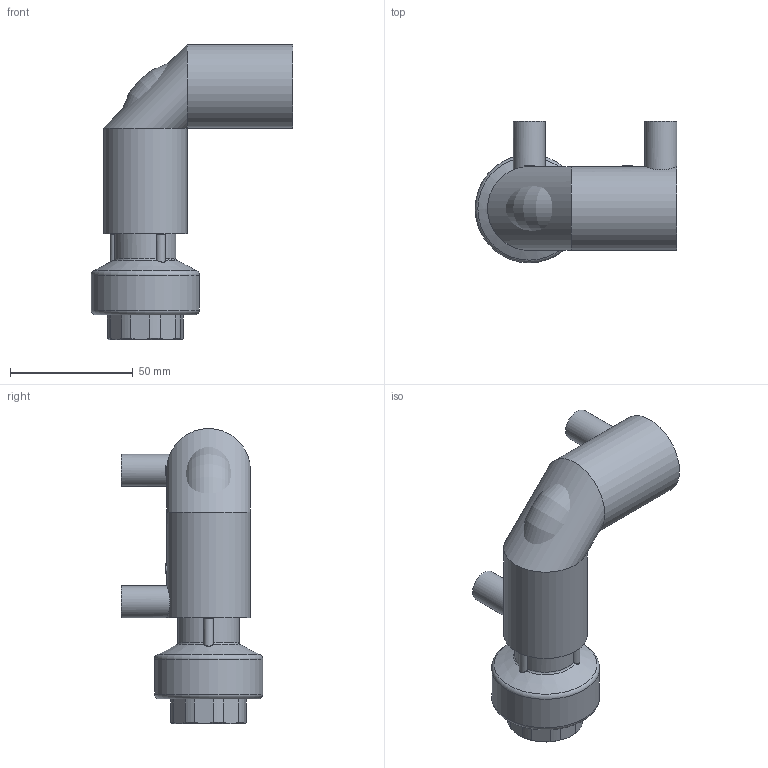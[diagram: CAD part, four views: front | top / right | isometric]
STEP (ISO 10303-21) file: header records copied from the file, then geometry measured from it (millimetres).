
FILE_DESCRIPTION(/* description */ ('Unknown'),/* implementation_level */ '2;1');
FILE_NAME(/* name */ 'GE9TFP025C.PF',/* time_stamp */ '2021-11-10T15:54:37+01:00',/* author */ ('Unknown'),/* organization */ ('Unknown'),/* preprocessor_version */ 'ST-DEVELOPER v16.7',/* originating_system */ 'Solid Edge',/* authorisation */ 'Unknown');
FILE_SCHEMA (('AUTOMOTIVE_DESIGN {1 0 10303 214 3 1 1}'));
Length unit declared in the file: millimetre
Products named in the file (5): GE9TFP025C.PF; GE9P025C.PF; RTOFP025C; Parte PE 025; IOF025C
Assembly tree (4 placements, depth 3):
  GE9TFP025C.PF
    GE9P025C.PF
    RTOFP025C
      Parte PE 025
      IOF025C
Bounding box: 82 x 57.5 x 120 mm (x, y, z)
Volume: 89937.6 mm3; surface area: 45849.4 mm2
Topology: 3 solids, 3 shells, 513 faces, 1245 edges, 753 vertices
Faces by surface type: bspline 231, plane 110, cylinder 96, cone 39, torus 37
Full cylindrical faces by diameter (mm): 4 x4, 10 x2, 13 x2, 19 x1, 21 x2, 23.5 x3, 24.117 x1, 25 x3, 26.5 x2, 32.5 x2, 33.4 x2, 34 x2, 36 x4, 44 x1
Entity records: 18904 total; most frequent: CARTESIAN_POINT 6806, ORIENTED_EDGE 2356, DIRECTION 1922, EDGE_CURVE 1178, AXIS2_PLACEMENT_3D 895, VERTEX_POINT 730, EDGE_LOOP 578, FACE_BOUND 578
